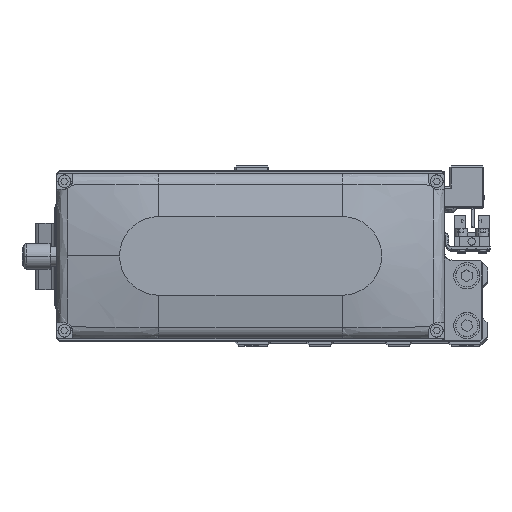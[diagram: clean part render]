
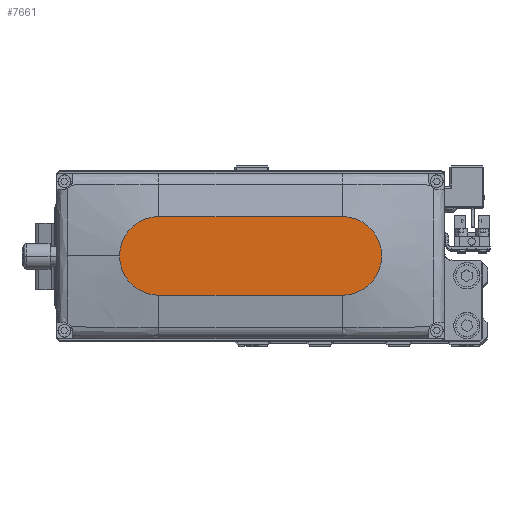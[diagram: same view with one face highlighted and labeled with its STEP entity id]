
A CAD part, top view. The second image highlights one B-rep face of the part: STEP entity #7661.
In plain terms, the highlighted planar face has unit normal (0, 0, 1).
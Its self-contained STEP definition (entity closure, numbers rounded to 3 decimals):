
#631 = VECTOR ( 'NONE', #1193, 1000. ) ;
#944 = DIRECTION ( 'NONE',  ( 0., 0., 1. ) ) ;
#1193 = DIRECTION ( 'NONE',  ( 1., 0., 0. ) ) ;
#2835 = VECTOR ( 'NONE', #3758, 1000. ) ;
#3442 = VERTEX_POINT ( 'NONE', #18022 ) ;
#3608 = EDGE_CURVE ( 'NONE', #32189, #22118, #19218, .T. ) ;
#3758 = DIRECTION ( 'NONE',  ( -1., 0., 0. ) ) ;
#4670 = DIRECTION ( 'NONE',  ( 0., 0., 1. ) ) ;
#5540 = AXIS2_PLACEMENT_3D ( 'NONE', #5912, #18321, #30718 ) ;
#5912 = CARTESIAN_POINT ( 'NONE',  ( 0., 0., 35. ) ) ;
#6955 = EDGE_CURVE ( 'NONE', #22118, #3442, #37965, .T. ) ;
#7661 = ADVANCED_FACE ( 'NONE', ( #20817 ), #33771, .T. ) ;
#9017 = ORIENTED_EDGE ( 'NONE', *, *, #22434, .T. ) ;
#9679 = CARTESIAN_POINT ( 'NONE',  ( 50., 0., 35. ) ) ;
#10137 = CARTESIAN_POINT ( 'NONE',  ( 35., -15., 35. ) ) ;
#10317 = DIRECTION ( 'NONE',  ( 0., 0., 1. ) ) ;
#13225 = AXIS2_PLACEMENT_3D ( 'NONE', #38156, #10317, #22724 ) ;
#13366 = DIRECTION ( 'NONE',  ( 1., 0., 0. ) ) ;
#16665 = LINE ( 'NONE', #29086, #631 ) ;
#17092 = DIRECTION ( 'NONE',  ( 1., 0., 0. ) ) ;
#18022 = CARTESIAN_POINT ( 'NONE',  ( -35., -15., 35. ) ) ;
#18321 = DIRECTION ( 'NONE',  ( 0., 0., 1. ) ) ;
#19055 = ORIENTED_EDGE ( 'NONE', *, *, #6955, .T. ) ;
#19218 = LINE ( 'NONE', #31634, #2835 ) ;
#19984 = VERTEX_POINT ( 'NONE', #9679 ) ;
#20447 = AXIS2_PLACEMENT_3D ( 'NONE', #28840, #944, #13366 ) ;
#20817 = FACE_OUTER_BOUND ( 'NONE', #28333, .T. ) ;
#20907 = CARTESIAN_POINT ( 'NONE',  ( 35., 15., 35. ) ) ;
#22118 = VERTEX_POINT ( 'NONE', #38293 ) ;
#22434 = EDGE_CURVE ( 'NONE', #3442, #36278, #16665, .T. ) ;
#22667 = AXIS2_PLACEMENT_3D ( 'NONE', #32544, #4670, #17092 ) ;
#22724 = DIRECTION ( 'NONE',  ( 1., 0., 0. ) ) ;
#25542 = ORIENTED_EDGE ( 'NONE', *, *, #35917, .T. ) ;
#28333 = EDGE_LOOP ( 'NONE', ( #34031, #19055, #9017, #25542, #37489 ) ) ;
#28840 = CARTESIAN_POINT ( 'NONE',  ( -35., 0., 35. ) ) ;
#29086 = CARTESIAN_POINT ( 'NONE',  ( -35., -15., 35. ) ) ;
#30718 = DIRECTION ( 'NONE',  ( 1., 0., 0. ) ) ;
#30748 = CIRCLE ( 'NONE', #13225, 15. ) ;
#31634 = CARTESIAN_POINT ( 'NONE',  ( -35., 15., 35. ) ) ;
#32189 = VERTEX_POINT ( 'NONE', #20907 ) ;
#32544 = CARTESIAN_POINT ( 'NONE',  ( 35., 0., 35. ) ) ;
#33260 = EDGE_CURVE ( 'NONE', #19984, #32189, #30748, .T. ) ;
#33771 = PLANE ( 'NONE',  #5540 ) ;
#34031 = ORIENTED_EDGE ( 'NONE', *, *, #3608, .T. ) ;
#35917 = EDGE_CURVE ( 'NONE', #36278, #19984, #40179, .T. ) ;
#36278 = VERTEX_POINT ( 'NONE', #10137 ) ;
#37489 = ORIENTED_EDGE ( 'NONE', *, *, #33260, .T. ) ;
#37965 = CIRCLE ( 'NONE', #20447, 15. ) ;
#38156 = CARTESIAN_POINT ( 'NONE',  ( 35., 0., 35. ) ) ;
#38293 = CARTESIAN_POINT ( 'NONE',  ( -35., 15., 35. ) ) ;
#40179 = CIRCLE ( 'NONE', #22667, 15. ) ;
